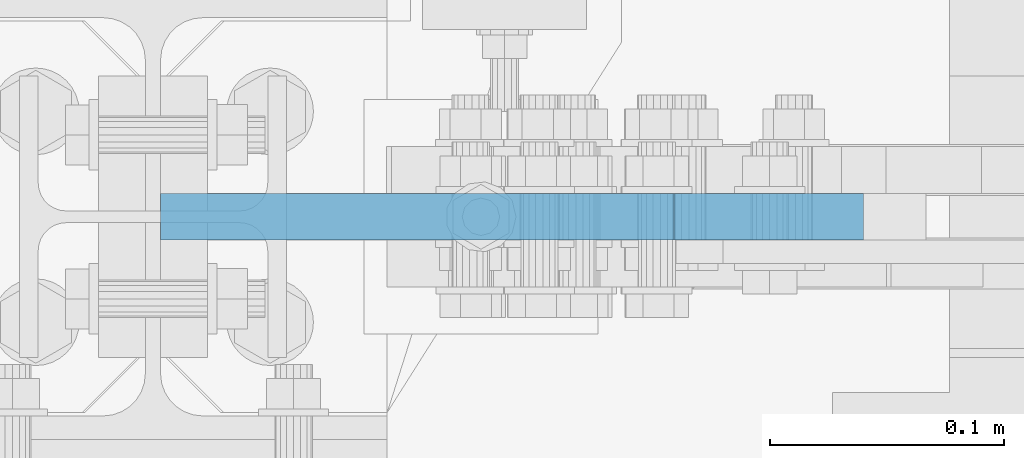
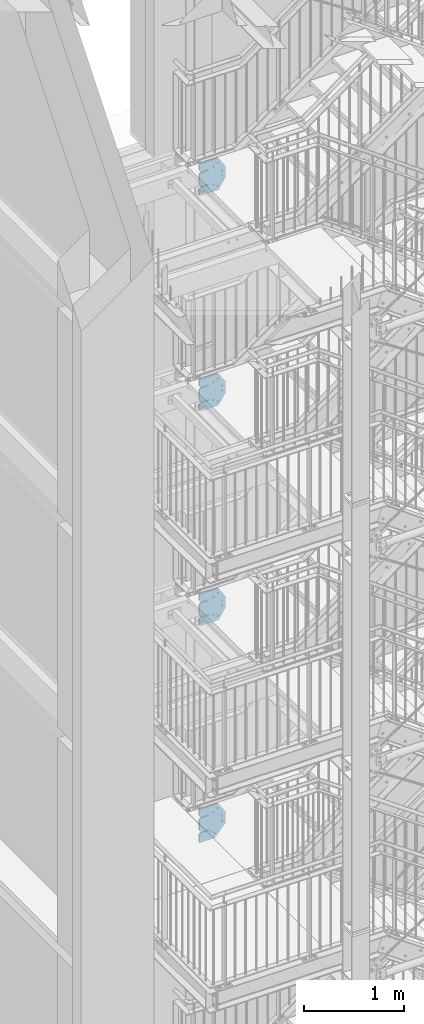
# One storey, part 186 of 831: 4 plates, 32 openings.
"""IFC2X3 building model written with IfcOpenShell, lengths in millimetres."""

from ifc_helpers import new_model, entity, si_unit, converted_unit, point, frame, frame_2d, origin, origin_with_axes, place, context, project, spatial, polyline, circle_curve, line_curve, trimmed, segment, composite_curve, circle, outline, extrude, material, layer, layer_set, element, save


model = new_model("IFC2X3")

# Units and contexts
model_context = context("Model", 3, precision=1e-09, world=origin_with_axes())
ifc_project = project(units=[si_unit("LENGTHUNIT", "METRE", prefix="MILLI"), si_unit("AREAUNIT", "SQUARE_METRE"), si_unit("VOLUMEUNIT", "CUBIC_METRE"), converted_unit("PLANEANGLEUNIT", "DEGREE", entity("IfcPlaneAngleMeasure", 0.01745329), si_unit("PLANEANGLEUNIT", "RADIAN"), dimensions=[0, 0, 0, 0, 0, 0, 0])], contexts=[model_context])

# Site, building, storey
site_placement = place(None, origin_with_axes())
site = spatial("IfcSite", under=ifc_project, at=site_placement, Name="Site", CompositionType="ELEMENT")
building_placement = place(site_placement, origin_with_axes())
building = spatial("IfcBuilding", under=site, at=building_placement, Name="Struktur 1", CompositionType="ELEMENT")
storey_placement = place(building_placement, origin_with_axes())
storey = spatial("IfcBuildingStorey", under=building, at=storey_placement, Name="Default Storey", CompositionType="ELEMENT", Elevation=0.0)

# Plate, openings
ifc_material = material(Name="S235JR")
ifc_layer = layer(ifc_material, 20.0)
ifc_layer_set = layer_set([ifc_layer], Name="S235JR")
plate_1_placement = place(None, frame((4859.963402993, 7526.736971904, 7178.428402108), z_axis=(0.0, -1.0, 0.0), x_axis=(0.0, 0.0, -1.0)))
plate_1 = element("IfcPlate", 1, at=plate_1_placement, inside=storey, material=ifc_layer_set, Name="-", ObjectType="-", context=model_context, shape_type="SweptSolid", body=[
    extrude(outline(polyline([(0.0, 0.0), (404.06512209, 0.0), (404.06512209, 177.249749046), (263.428405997, 300.0), (123.428405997, 300.0), (0.0, 219.202103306), (0.0, 0.0)])), origin_with_axes(), (0.0, 0.0, 1.0), 20.0),
])
opening_1_placement = place(plate_1_placement, frame((0.0, 0.0, 20.1), z_axis=(0.0, 0.0, -1.0), x_axis=(0.0, -1.0, 0.0)))
element("IfcOpeningElement", 2, at=opening_1_placement, cuts=plate_1, ObjectType="Opening", context=model_context, shape_type="SweptSolid", body=[
    extrude(outline(composite_curve([segment(trimmed(line_curve((20.001, -257.427402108), (-1.0, 0.0), 20.001414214), [point((20.001, -257.427402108))], [point((-0.000414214, -257.427402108))], True, "CARTESIAN"), True, "CONTINUOUS"), segment(trimmed(line_curve((-0.000414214, -257.427402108), (-0.707106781, -0.707106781), 28.284271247), [point((-0.000414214, -257.427402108))], [point((-20.000414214, -277.427402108))], True, "CARTESIAN"), True, "CONTINUOUS"), segment(trimmed(line_curve((-20.000414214, -277.427402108), (-1.0, 0.0), 77.749584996), [point((-20.000414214, -277.427402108))], [point((-97.749999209, -277.427402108))], True, "CARTESIAN"), True, "CONTINUOUS"), segment(trimmed(circle_curve(frame_2d((-97.75, -283.428402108), x_axis=(1.0, 0.0)), 6.001), [point((-97.749999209, -277.427402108))], [point((-97.75, -289.429402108))], True, "CARTESIAN"), True, "CONTINUOUS"), segment(trimmed(line_curve((-97.75, -289.429402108), (1.0, 0.0), 77.749585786), [point((-97.75, -289.429402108))], [point((-20.000414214, -289.429402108))], True, "CARTESIAN"), True, "CONTINUOUS"), segment(trimmed(line_curve((-20.000414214, -289.429402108), (0.707106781, -0.707106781), 28.284271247), [point((-20.000414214, -289.429402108))], [point((-0.000414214, -309.429402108))], True, "CARTESIAN"), True, "CONTINUOUS"), segment(trimmed(line_curve((-0.000414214, -309.429402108), (1.0, 0.0), 20.001414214), [point((-0.000414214, -309.429402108))], [point((20.001, -309.429402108))], True, "CARTESIAN"), True, "CONTINUOUS"), segment(trimmed(line_curve((20.001, -309.429402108), (0.0, 1.0), 52.002), [point((20.001, -309.429402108))], [point((20.001, -257.427402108))], True, "CARTESIAN"), True, "CONTINUOUS")], self_intersect=False)), origin(), (0.0, 0.0, 1.0), 20.2),
])
opening_2_placement = place(plate_1_placement, frame((0.0, 0.0, 20.1), z_axis=(0.0, 0.0, -1.0), x_axis=(0.0, -1.0, 0.0)))
element("IfcOpeningElement", 3, at=opening_2_placement, cuts=plate_1, ObjectType="Opening", context=model_context, shape_type="SweptSolid", body=[
    extrude(outline(composite_curve([segment(trimmed(line_curve((20.001, -77.427402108), (-1.0, 0.0), 20.001414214), [point((20.001, -77.427402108))], [point((-0.000414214, -77.427402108))], True, "CARTESIAN"), True, "CONTINUOUS"), segment(trimmed(line_curve((-0.000414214, -77.427402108), (-0.707106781, -0.707106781), 28.284271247), [point((-0.000414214, -77.427402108))], [point((-20.000414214, -97.427402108))], True, "CARTESIAN"), True, "CONTINUOUS"), segment(trimmed(line_curve((-20.000414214, -97.427402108), (-1.0, 0.0), 77.749585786), [point((-20.000414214, -97.427402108))], [point((-97.75, -97.427402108))], True, "CARTESIAN"), True, "CONTINUOUS"), segment(trimmed(circle_curve(frame_2d((-97.75, -103.428402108), x_axis=(1.0, 0.0)), 6.001), [point((-97.75, -97.427402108))], [point((-97.75, -109.429402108))], True, "CARTESIAN"), True, "CONTINUOUS"), segment(trimmed(line_curve((-97.75, -109.429402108), (1.0, 0.0), 77.749585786), [point((-97.75, -109.429402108))], [point((-20.000414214, -109.429402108))], True, "CARTESIAN"), True, "CONTINUOUS"), segment(trimmed(line_curve((-20.000414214, -109.429402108), (0.707106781, -0.707106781), 28.284271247), [point((-20.000414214, -109.429402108))], [point((-0.000414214, -129.429402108))], True, "CARTESIAN"), True, "CONTINUOUS"), segment(trimmed(line_curve((-0.000414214, -129.429402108), (1.0, 0.0), 20.001414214), [point((-0.000414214, -129.429402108))], [point((20.001, -129.429402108))], True, "CARTESIAN"), True, "CONTINUOUS"), segment(trimmed(line_curve((20.001, -129.429402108), (0.0, 1.0), 52.002), [point((20.001, -129.429402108))], [point((20.001, -77.427402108))], True, "CARTESIAN"), True, "CONTINUOUS")], self_intersect=False)), origin(), (0.0, 0.0, 1.0), 20.2),
])
opening_3_placement = place(plate_1_placement, frame((163.428405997, 269.000998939, -0.5), z_axis=(0.0, 0.0, -1.0), x_axis=(-1.0, 0.0, 0.0)))
element("IfcOpeningElement", 4, at=opening_3_placement, cuts=plate_1, ObjectType="Opening", context=model_context, shape_type="SweptSolid", body=[
    extrude(circle(Radius=9.001, at=frame_2d((0.0, -9.001), x_axis=(1.0, 0.0))), origin(), (0.0, 0.0, -1.0), 21.0),
])
opening_4_placement = place(plate_1_placement, frame((223.428405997, 269.000998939, -0.5), z_axis=(0.0, 0.0, -1.0), x_axis=(-1.0, 0.0, 0.0)))
element("IfcOpeningElement", 5, at=opening_4_placement, cuts=plate_1, ObjectType="Opening", context=model_context, shape_type="SweptSolid", body=[
    extrude(circle(Radius=9.001, at=frame_2d((0.0, -9.001), x_axis=(1.0, 0.0))), origin(), (0.0, 0.0, -1.0), 21.0),
])
opening_5_placement = place(plate_1_placement, frame((344.33129579, 170.985700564, -0.5), z_axis=(0.0, 0.0, -1.0), x_axis=(-1.0, 0.0, 0.0)))
element("IfcOpeningElement", 6, at=opening_5_placement, cuts=plate_1, ObjectType="Opening", context=model_context, shape_type="SweptSolid", body=[
    extrude(circle(Radius=9.001, at=frame_2d((-5.89276857, 6.803916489), x_axis=(1.0, 0.0))), origin(), (0.0, 0.0, -1.0), 21.0),
])
opening_6_placement = place(plate_1_placement, frame((305.05053652, 125.631296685, -0.5), z_axis=(0.0, 0.0, -1.0), x_axis=(-1.0, 0.0, 0.0)))
element("IfcOpeningElement", 7, at=opening_6_placement, cuts=plate_1, ObjectType="Opening", context=model_context, shape_type="SweptSolid", body=[
    extrude(circle(Radius=9.001, at=frame_2d((-5.89276857, 6.803916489), x_axis=(1.0, 0.0))), origin(), (0.0, 0.0, -1.0), 21.0),
])
opening_7_placement = place(plate_1_placement, frame((68.943929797, 186.431670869, -0.5), z_axis=(0.0, 0.0, 1.0), x_axis=(-0.548722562, 0.836004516, 0.0)))
element("IfcOpeningElement", 8, at=opening_7_placement, cuts=plate_1, ObjectType="Opening", context=model_context, shape_type="SweptSolid", body=[
    extrude(circle(Radius=9.001, at=frame_2d((30.0, 0.0), x_axis=(1.0, 0.0))), origin(), (0.0, 0.0, 1.0), 21.0),
])
opening_8_placement = place(plate_1_placement, frame((68.943929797, 186.431670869, -0.5), z_axis=(0.0, 0.0, 1.0), x_axis=(-0.548722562, 0.836004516, 0.0)))
element("IfcOpeningElement", 9, at=opening_8_placement, cuts=plate_1, ObjectType="Opening", context=model_context, shape_type="SweptSolid", body=[
    extrude(circle(Radius=9.001, at=frame_2d((-30.0, 0.0), x_axis=(1.0, 0.0))), origin(), (0.0, 0.0, 1.0), 21.0),
])

plate_2_placement = place(None, frame((4859.963402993, 7526.736971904, 9810.428402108), z_axis=(0.0, -1.0, 0.0), x_axis=(0.0, 0.0, -1.0)))
plate_2 = element("IfcPlate", 10, at=plate_2_placement, inside=storey, material=ifc_layer_set, Name="-", ObjectType="-", context=model_context, shape_type="SweptSolid", body=[
    extrude(outline(polyline([(0.0, 0.0), (386.856811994, 0.0), (386.856811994, 219.202103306), (263.428405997, 300.0), (123.428405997, 300.0), (0.0, 219.202103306), (0.0, 0.0)])), origin_with_axes(), (0.0, 0.0, 1.0), 20.0),
])
opening_9_placement = place(plate_2_placement, frame((0.0, 0.0, 20.1), z_axis=(0.0, 0.0, -1.0), x_axis=(0.0, -1.0, 0.0)))
element("IfcOpeningElement", 11, at=opening_9_placement, cuts=plate_2, ObjectType="Opening", context=model_context, shape_type="SweptSolid", body=[
    extrude(outline(composite_curve([segment(trimmed(line_curve((20.001, -257.427402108), (-1.0, 0.0), 20.001414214), [point((20.001, -257.427402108))], [point((-0.000414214, -257.427402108))], True, "CARTESIAN"), True, "CONTINUOUS"), segment(trimmed(line_curve((-0.000414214, -257.427402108), (-0.707106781, -0.707106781), 28.284271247), [point((-0.000414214, -257.427402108))], [point((-20.000414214, -277.427402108))], True, "CARTESIAN"), True, "CONTINUOUS"), segment(trimmed(line_curve((-20.000414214, -277.427402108), (-1.0, 0.0), 77.749584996), [point((-20.000414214, -277.427402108))], [point((-97.749999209, -277.427402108))], True, "CARTESIAN"), True, "CONTINUOUS"), segment(trimmed(circle_curve(frame_2d((-97.75, -283.428402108), x_axis=(1.0, 0.0)), 6.001), [point((-97.749999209, -277.427402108))], [point((-97.75, -289.429402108))], True, "CARTESIAN"), True, "CONTINUOUS"), segment(trimmed(line_curve((-97.75, -289.429402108), (1.0, 0.0), 77.749585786), [point((-97.75, -289.429402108))], [point((-20.000414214, -289.429402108))], True, "CARTESIAN"), True, "CONTINUOUS"), segment(trimmed(line_curve((-20.000414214, -289.429402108), (0.707106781, -0.707106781), 28.284271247), [point((-20.000414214, -289.429402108))], [point((-0.000414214, -309.429402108))], True, "CARTESIAN"), True, "CONTINUOUS"), segment(trimmed(line_curve((-0.000414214, -309.429402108), (1.0, 0.0), 20.001414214), [point((-0.000414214, -309.429402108))], [point((20.001, -309.429402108))], True, "CARTESIAN"), True, "CONTINUOUS"), segment(trimmed(line_curve((20.001, -309.429402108), (0.0, 1.0), 52.002), [point((20.001, -309.429402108))], [point((20.001, -257.427402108))], True, "CARTESIAN"), True, "CONTINUOUS")], self_intersect=False)), origin(), (0.0, 0.0, 1.0), 20.2),
])
opening_10_placement = place(plate_2_placement, frame((0.0, 0.0, 20.1), z_axis=(0.0, 0.0, -1.0), x_axis=(0.0, -1.0, 0.0)))
element("IfcOpeningElement", 12, at=opening_10_placement, cuts=plate_2, ObjectType="Opening", context=model_context, shape_type="SweptSolid", body=[
    extrude(outline(composite_curve([segment(trimmed(line_curve((20.001, -77.427402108), (-1.0, 0.0), 20.001414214), [point((20.001, -77.427402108))], [point((-0.000414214, -77.427402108))], True, "CARTESIAN"), True, "CONTINUOUS"), segment(trimmed(line_curve((-0.000414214, -77.427402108), (-0.707106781, -0.707106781), 28.284271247), [point((-0.000414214, -77.427402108))], [point((-20.000414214, -97.427402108))], True, "CARTESIAN"), True, "CONTINUOUS"), segment(trimmed(line_curve((-20.000414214, -97.427402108), (-1.0, 0.0), 77.749585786), [point((-20.000414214, -97.427402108))], [point((-97.75, -97.427402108))], True, "CARTESIAN"), True, "CONTINUOUS"), segment(trimmed(circle_curve(frame_2d((-97.75, -103.428402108), x_axis=(1.0, 0.0)), 6.001), [point((-97.75, -97.427402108))], [point((-97.75, -109.429402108))], True, "CARTESIAN"), True, "CONTINUOUS"), segment(trimmed(line_curve((-97.75, -109.429402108), (1.0, 0.0), 77.749585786), [point((-97.75, -109.429402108))], [point((-20.000414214, -109.429402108))], True, "CARTESIAN"), True, "CONTINUOUS"), segment(trimmed(line_curve((-20.000414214, -109.429402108), (0.707106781, -0.707106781), 28.284271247), [point((-20.000414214, -109.429402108))], [point((-0.000414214, -129.429402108))], True, "CARTESIAN"), True, "CONTINUOUS"), segment(trimmed(line_curve((-0.000414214, -129.429402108), (1.0, 0.0), 20.001414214), [point((-0.000414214, -129.429402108))], [point((20.001, -129.429402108))], True, "CARTESIAN"), True, "CONTINUOUS"), segment(trimmed(line_curve((20.001, -129.429402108), (0.0, 1.0), 52.002), [point((20.001, -129.429402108))], [point((20.001, -77.427402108))], True, "CARTESIAN"), True, "CONTINUOUS")], self_intersect=False)), origin(), (0.0, 0.0, 1.0), 20.2),
])
opening_11_placement = place(plate_2_placement, frame((163.428405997, 269.000998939, -0.5), z_axis=(0.0, 0.0, -1.0), x_axis=(-1.0, 0.0, 0.0)))
element("IfcOpeningElement", 13, at=opening_11_placement, cuts=plate_2, ObjectType="Opening", context=model_context, shape_type="SweptSolid", body=[
    extrude(circle(Radius=9.001, at=frame_2d((0.0, -9.001), x_axis=(1.0, 0.0))), origin(), (0.0, 0.0, -1.0), 21.0),
])
opening_12_placement = place(plate_2_placement, frame((223.428405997, 269.000998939, -0.5), z_axis=(0.0, 0.0, -1.0), x_axis=(-1.0, 0.0, 0.0)))
element("IfcOpeningElement", 14, at=opening_12_placement, cuts=plate_2, ObjectType="Opening", context=model_context, shape_type="SweptSolid", body=[
    extrude(circle(Radius=9.001, at=frame_2d((0.0, -9.001), x_axis=(1.0, 0.0))), origin(), (0.0, 0.0, -1.0), 21.0),
])
opening_13_placement = place(plate_2_placement, frame((329.531485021, 204.110694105, -0.5), z_axis=(0.0, 0.0, -1.0), x_axis=(-1.0, 0.0, 0.0)))
element("IfcOpeningElement", 15, at=opening_13_placement, cuts=plate_2, ObjectType="Opening", context=model_context, shape_type="SweptSolid", body=[
    extrude(circle(Radius=9.001, at=frame_2d((-4.939030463, 7.524890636), x_axis=(1.0, 0.0))), origin(), (0.0, 0.0, -1.0), 21.0),
])
opening_14_placement = place(plate_2_placement, frame((296.608273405, 153.950329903, -0.5), z_axis=(0.0, 0.0, -1.0), x_axis=(-1.0, 0.0, 0.0)))
element("IfcOpeningElement", 16, at=opening_14_placement, cuts=plate_2, ObjectType="Opening", context=model_context, shape_type="SweptSolid", body=[
    extrude(circle(Radius=9.001, at=frame_2d((-4.939030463, 7.524890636), x_axis=(1.0, 0.0))), origin(), (0.0, 0.0, -1.0), 21.0),
])
opening_15_placement = place(plate_2_placement, frame((69.052088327, 186.502432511, -0.5), z_axis=(0.0, 0.0, 1.0), x_axis=(-0.54798027, 0.836491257, 0.0)))
element("IfcOpeningElement", 17, at=opening_15_placement, cuts=plate_2, ObjectType="Opening", context=model_context, shape_type="SweptSolid", body=[
    extrude(circle(Radius=9.001, at=frame_2d((30.0, 0.0), x_axis=(1.0, 0.0))), origin(), (0.0, 0.0, 1.0), 21.0),
])
opening_16_placement = place(plate_2_placement, frame((69.052088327, 186.502432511, -0.5), z_axis=(0.0, 0.0, 1.0), x_axis=(-0.54798027, 0.836491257, 0.0)))
element("IfcOpeningElement", 18, at=opening_16_placement, cuts=plate_2, ObjectType="Opening", context=model_context, shape_type="SweptSolid", body=[
    extrude(circle(Radius=9.001, at=frame_2d((-30.0, 0.0), x_axis=(1.0, 0.0))), origin(), (0.0, 0.0, 1.0), 21.0),
])

plate_3_placement = place(None, frame((4859.963402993, 7526.736971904, 12437.428402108), z_axis=(0.0, -1.0, 0.0), x_axis=(0.0, 0.0, -1.0)))
plate_3 = element("IfcPlate", 19, at=plate_3_placement, inside=storey, material=ifc_layer_set, Name="-", ObjectType="-", context=model_context, shape_type="SweptSolid", body=[
    extrude(outline(polyline([(0.0, 0.0), (386.856811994, 0.0), (386.856811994, 219.202103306), (263.428405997, 300.0), (123.428405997, 300.0), (0.0, 219.202103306), (0.0, 0.0)])), origin_with_axes(), (0.0, 0.0, 1.0), 20.0),
])
opening_17_placement = place(plate_3_placement, frame((0.0, 0.0, 20.1), z_axis=(0.0, 0.0, -1.0), x_axis=(0.0, -1.0, 0.0)))
element("IfcOpeningElement", 20, at=opening_17_placement, cuts=plate_3, ObjectType="Opening", context=model_context, shape_type="SweptSolid", body=[
    extrude(outline(composite_curve([segment(trimmed(line_curve((20.001, -257.427402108), (-1.0, 0.0), 20.001414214), [point((20.001, -257.427402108))], [point((-0.000414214, -257.427402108))], True, "CARTESIAN"), True, "CONTINUOUS"), segment(trimmed(line_curve((-0.000414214, -257.427402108), (-0.707106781, -0.707106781), 28.284271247), [point((-0.000414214, -257.427402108))], [point((-20.000414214, -277.427402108))], True, "CARTESIAN"), True, "CONTINUOUS"), segment(trimmed(line_curve((-20.000414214, -277.427402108), (-1.0, 0.0), 77.749584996), [point((-20.000414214, -277.427402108))], [point((-97.749999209, -277.427402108))], True, "CARTESIAN"), True, "CONTINUOUS"), segment(trimmed(circle_curve(frame_2d((-97.75, -283.428402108), x_axis=(1.0, 0.0)), 6.001), [point((-97.749999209, -277.427402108))], [point((-97.75, -289.429402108))], True, "CARTESIAN"), True, "CONTINUOUS"), segment(trimmed(line_curve((-97.75, -289.429402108), (1.0, 0.0), 77.749585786), [point((-97.75, -289.429402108))], [point((-20.000414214, -289.429402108))], True, "CARTESIAN"), True, "CONTINUOUS"), segment(trimmed(line_curve((-20.000414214, -289.429402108), (0.707106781, -0.707106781), 28.284271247), [point((-20.000414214, -289.429402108))], [point((-0.000414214, -309.429402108))], True, "CARTESIAN"), True, "CONTINUOUS"), segment(trimmed(line_curve((-0.000414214, -309.429402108), (1.0, 0.0), 20.001414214), [point((-0.000414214, -309.429402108))], [point((20.001, -309.429402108))], True, "CARTESIAN"), True, "CONTINUOUS"), segment(trimmed(line_curve((20.001, -309.429402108), (0.0, 1.0), 52.002), [point((20.001, -309.429402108))], [point((20.001, -257.427402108))], True, "CARTESIAN"), True, "CONTINUOUS")], self_intersect=False)), origin(), (0.0, 0.0, 1.0), 20.2),
])
opening_18_placement = place(plate_3_placement, frame((0.0, 0.0, 20.1), z_axis=(0.0, 0.0, -1.0), x_axis=(0.0, -1.0, 0.0)))
element("IfcOpeningElement", 21, at=opening_18_placement, cuts=plate_3, ObjectType="Opening", context=model_context, shape_type="SweptSolid", body=[
    extrude(outline(composite_curve([segment(trimmed(line_curve((20.001, -77.427402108), (-1.0, 0.0), 20.001414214), [point((20.001, -77.427402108))], [point((-0.000414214, -77.427402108))], True, "CARTESIAN"), True, "CONTINUOUS"), segment(trimmed(line_curve((-0.000414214, -77.427402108), (-0.707106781, -0.707106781), 28.284271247), [point((-0.000414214, -77.427402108))], [point((-20.000414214, -97.427402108))], True, "CARTESIAN"), True, "CONTINUOUS"), segment(trimmed(line_curve((-20.000414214, -97.427402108), (-1.0, 0.0), 77.749585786), [point((-20.000414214, -97.427402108))], [point((-97.75, -97.427402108))], True, "CARTESIAN"), True, "CONTINUOUS"), segment(trimmed(circle_curve(frame_2d((-97.75, -103.428402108), x_axis=(1.0, 0.0)), 6.001), [point((-97.75, -97.427402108))], [point((-97.75, -109.429402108))], True, "CARTESIAN"), True, "CONTINUOUS"), segment(trimmed(line_curve((-97.75, -109.429402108), (1.0, 0.0), 77.749585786), [point((-97.75, -109.429402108))], [point((-20.000414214, -109.429402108))], True, "CARTESIAN"), True, "CONTINUOUS"), segment(trimmed(line_curve((-20.000414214, -109.429402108), (0.707106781, -0.707106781), 28.284271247), [point((-20.000414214, -109.429402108))], [point((-0.000414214, -129.429402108))], True, "CARTESIAN"), True, "CONTINUOUS"), segment(trimmed(line_curve((-0.000414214, -129.429402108), (1.0, 0.0), 20.001414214), [point((-0.000414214, -129.429402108))], [point((20.001, -129.429402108))], True, "CARTESIAN"), True, "CONTINUOUS"), segment(trimmed(line_curve((20.001, -129.429402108), (0.0, 1.0), 52.002), [point((20.001, -129.429402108))], [point((20.001, -77.427402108))], True, "CARTESIAN"), True, "CONTINUOUS")], self_intersect=False)), origin(), (0.0, 0.0, 1.0), 20.2),
])
opening_19_placement = place(plate_3_placement, frame((163.428405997, 269.000998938, -0.5), z_axis=(0.0, 0.0, -1.0), x_axis=(-1.0, 0.0, 0.0)))
element("IfcOpeningElement", 22, at=opening_19_placement, cuts=plate_3, ObjectType="Opening", context=model_context, shape_type="SweptSolid", body=[
    extrude(circle(Radius=9.001, at=frame_2d((0.0, -9.001), x_axis=(1.0, 0.0))), origin(), (0.0, 0.0, -1.0), 21.0),
])
opening_20_placement = place(plate_3_placement, frame((223.428405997, 269.000998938, -0.5), z_axis=(0.0, 0.0, -1.0), x_axis=(-1.0, 0.0, 0.0)))
element("IfcOpeningElement", 23, at=opening_20_placement, cuts=plate_3, ObjectType="Opening", context=model_context, shape_type="SweptSolid", body=[
    extrude(circle(Radius=9.001, at=frame_2d((0.0, -9.001), x_axis=(1.0, 0.0))), origin(), (0.0, 0.0, -1.0), 21.0),
])
opening_21_placement = place(plate_3_placement, frame((329.350426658, 204.228988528, -0.5), z_axis=(0.0, 0.0, -1.0), x_axis=(-1.0, 0.0, 0.0)))
element("IfcOpeningElement", 24, at=opening_21_placement, cuts=plate_3, ObjectType="Opening", context=model_context, shape_type="SweptSolid", body=[
    extrude(circle(Radius=9.001, at=frame_2d((-4.932467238, 7.529194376), x_axis=(1.0, 0.0))), origin(), (0.0, 0.0, -1.0), 21.0),
])
opening_22_placement = place(plate_3_placement, frame((296.470965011, 154.039935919, -0.5), z_axis=(0.0, 0.0, -1.0), x_axis=(-1.0, 0.0, 0.0)))
element("IfcOpeningElement", 25, at=opening_22_placement, cuts=plate_3, ObjectType="Opening", context=model_context, shape_type="SweptSolid", body=[
    extrude(circle(Radius=9.001, at=frame_2d((-4.932467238, 7.529194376), x_axis=(1.0, 0.0))), origin(), (0.0, 0.0, -1.0), 21.0),
])
opening_23_placement = place(plate_3_placement, frame((68.83434187, 186.359941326, -0.5), z_axis=(0.0, 0.0, 1.0), x_axis=(-0.549157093, 0.835719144, 0.0)))
element("IfcOpeningElement", 26, at=opening_23_placement, cuts=plate_3, ObjectType="Opening", context=model_context, shape_type="SweptSolid", body=[
    extrude(circle(Radius=9.001, at=frame_2d((30.0, 0.0), x_axis=(1.0, 0.0))), origin(), (0.0, 0.0, 1.0), 21.0),
])
opening_24_placement = place(plate_3_placement, frame((68.83434187, 186.359941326, -0.5), z_axis=(0.0, 0.0, 1.0), x_axis=(-0.549157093, 0.835719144, 0.0)))
element("IfcOpeningElement", 27, at=opening_24_placement, cuts=plate_3, ObjectType="Opening", context=model_context, shape_type="SweptSolid", body=[
    extrude(circle(Radius=9.001, at=frame_2d((-30.0, 0.0), x_axis=(1.0, 0.0))), origin(), (0.0, 0.0, 1.0), 21.0),
])

plate_4_placement = place(None, frame((4859.963402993, 7526.736971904, 15072.428402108), z_axis=(0.0, -1.0, 0.0), x_axis=(0.0, 0.0, -1.0)))
plate_4 = element("IfcPlate", 28, at=plate_4_placement, inside=storey, material=ifc_layer_set, Name="-", ObjectType="-", context=model_context, shape_type="SweptSolid", body=[
    extrude(outline(polyline([(0.0, 0.0), (386.856811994, 0.0), (386.856811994, 219.202103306), (263.428405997, 300.0), (123.428405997, 300.0), (0.0, 219.202103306), (0.0, 0.0)])), origin_with_axes(), (0.0, 0.0, 1.0), 20.0),
])
opening_25_placement = place(plate_4_placement, frame((0.0, 0.0, 20.1), z_axis=(0.0, 0.0, -1.0), x_axis=(0.0, -1.0, 0.0)))
element("IfcOpeningElement", 29, at=opening_25_placement, cuts=plate_4, ObjectType="Opening", context=model_context, shape_type="SweptSolid", body=[
    extrude(outline(composite_curve([segment(trimmed(line_curve((20.001, -257.427402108), (-1.0, 0.0), 20.001414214), [point((20.001, -257.427402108))], [point((-0.000414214, -257.427402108))], True, "CARTESIAN"), True, "CONTINUOUS"), segment(trimmed(line_curve((-0.000414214, -257.427402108), (-0.707106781, -0.707106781), 28.284271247), [point((-0.000414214, -257.427402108))], [point((-20.000414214, -277.427402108))], True, "CARTESIAN"), True, "CONTINUOUS"), segment(trimmed(line_curve((-20.000414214, -277.427402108), (-1.0, 0.0), 77.749584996), [point((-20.000414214, -277.427402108))], [point((-97.749999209, -277.427402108))], True, "CARTESIAN"), True, "CONTINUOUS"), segment(trimmed(circle_curve(frame_2d((-97.75, -283.428402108), x_axis=(1.0, 0.0)), 6.001), [point((-97.749999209, -277.427402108))], [point((-97.75, -289.429402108))], True, "CARTESIAN"), True, "CONTINUOUS"), segment(trimmed(line_curve((-97.75, -289.429402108), (1.0, 0.0), 77.749585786), [point((-97.75, -289.429402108))], [point((-20.000414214, -289.429402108))], True, "CARTESIAN"), True, "CONTINUOUS"), segment(trimmed(line_curve((-20.000414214, -289.429402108), (0.707106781, -0.707106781), 28.284271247), [point((-20.000414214, -289.429402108))], [point((-0.000414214, -309.429402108))], True, "CARTESIAN"), True, "CONTINUOUS"), segment(trimmed(line_curve((-0.000414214, -309.429402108), (1.0, 0.0), 20.001414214), [point((-0.000414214, -309.429402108))], [point((20.001, -309.429402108))], True, "CARTESIAN"), True, "CONTINUOUS"), segment(trimmed(line_curve((20.001, -309.429402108), (0.0, 1.0), 52.002), [point((20.001, -309.429402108))], [point((20.001, -257.427402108))], True, "CARTESIAN"), True, "CONTINUOUS")], self_intersect=False)), origin(), (0.0, 0.0, 1.0), 20.2),
])
opening_26_placement = place(plate_4_placement, frame((0.0, 0.0, 20.1), z_axis=(0.0, 0.0, -1.0), x_axis=(0.0, -1.0, 0.0)))
element("IfcOpeningElement", 30, at=opening_26_placement, cuts=plate_4, ObjectType="Opening", context=model_context, shape_type="SweptSolid", body=[
    extrude(outline(composite_curve([segment(trimmed(line_curve((20.001, -77.427402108), (-1.0, 0.0), 20.001414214), [point((20.001, -77.427402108))], [point((-0.000414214, -77.427402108))], True, "CARTESIAN"), True, "CONTINUOUS"), segment(trimmed(line_curve((-0.000414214, -77.427402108), (-0.707106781, -0.707106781), 28.284271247), [point((-0.000414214, -77.427402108))], [point((-20.000414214, -97.427402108))], True, "CARTESIAN"), True, "CONTINUOUS"), segment(trimmed(line_curve((-20.000414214, -97.427402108), (-1.0, 0.0), 77.749585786), [point((-20.000414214, -97.427402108))], [point((-97.75, -97.427402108))], True, "CARTESIAN"), True, "CONTINUOUS"), segment(trimmed(circle_curve(frame_2d((-97.75, -103.428402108), x_axis=(1.0, 0.0)), 6.001), [point((-97.75, -97.427402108))], [point((-97.75, -109.429402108))], True, "CARTESIAN"), True, "CONTINUOUS"), segment(trimmed(line_curve((-97.75, -109.429402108), (1.0, 0.0), 77.749585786), [point((-97.75, -109.429402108))], [point((-20.000414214, -109.429402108))], True, "CARTESIAN"), True, "CONTINUOUS"), segment(trimmed(line_curve((-20.000414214, -109.429402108), (0.707106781, -0.707106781), 28.284271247), [point((-20.000414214, -109.429402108))], [point((-0.000414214, -129.429402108))], True, "CARTESIAN"), True, "CONTINUOUS"), segment(trimmed(line_curve((-0.000414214, -129.429402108), (1.0, 0.0), 20.001414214), [point((-0.000414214, -129.429402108))], [point((20.001, -129.429402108))], True, "CARTESIAN"), True, "CONTINUOUS"), segment(trimmed(line_curve((20.001, -129.429402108), (0.0, 1.0), 52.002), [point((20.001, -129.429402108))], [point((20.001, -77.427402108))], True, "CARTESIAN"), True, "CONTINUOUS")], self_intersect=False)), origin(), (0.0, 0.0, 1.0), 20.2),
])
opening_27_placement = place(plate_4_placement, frame((163.428405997, 269.000998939, -0.5), z_axis=(0.0, 0.0, -1.0), x_axis=(-1.0, 0.0, 0.0)))
element("IfcOpeningElement", 31, at=opening_27_placement, cuts=plate_4, ObjectType="Opening", context=model_context, shape_type="SweptSolid", body=[
    extrude(circle(Radius=9.001, at=frame_2d((0.0, -9.001), x_axis=(1.0, 0.0))), origin(), (0.0, 0.0, -1.0), 21.0),
])
opening_28_placement = place(plate_4_placement, frame((223.428405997, 269.000998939, -0.5), z_axis=(0.0, 0.0, -1.0), x_axis=(-1.0, 0.0, 0.0)))
element("IfcOpeningElement", 32, at=opening_28_placement, cuts=plate_4, ObjectType="Opening", context=model_context, shape_type="SweptSolid", body=[
    extrude(circle(Radius=9.001, at=frame_2d((0.0, -9.001), x_axis=(1.0, 0.0))), origin(), (0.0, 0.0, -1.0), 21.0),
])
opening_29_placement = place(plate_4_placement, frame((69.331094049, 186.685198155, -0.5), z_axis=(0.0, 0.0, 1.0), x_axis=(-0.546968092, 0.837153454, 0.0)))
element("IfcOpeningElement", 33, at=opening_29_placement, cuts=plate_4, ObjectType="Opening", context=model_context, shape_type="SweptSolid", body=[
    extrude(circle(Radius=9.001, at=frame_2d((30.0, 0.0), x_axis=(1.0, 0.0))), origin(), (0.0, 0.0, 1.0), 21.0),
])
opening_30_placement = place(plate_4_placement, frame((69.331094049, 186.685198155, -0.5), z_axis=(0.0, 0.0, 1.0), x_axis=(-0.546968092, 0.837153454, 0.0)))
element("IfcOpeningElement", 34, at=opening_30_placement, cuts=plate_4, ObjectType="Opening", context=model_context, shape_type="SweptSolid", body=[
    extrude(circle(Radius=9.001, at=frame_2d((-30.0, 0.0), x_axis=(1.0, 0.0))), origin(), (0.0, 0.0, 1.0), 21.0),
])
opening_31_placement = place(plate_4_placement, frame((329.640029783, 204.039795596, -0.5), z_axis=(0.0, 0.0, -1.0), x_axis=(-1.0, 0.0, 0.0)))
element("IfcOpeningElement", 35, at=opening_31_placement, cuts=plate_4, ObjectType="Opening", context=model_context, shape_type="SweptSolid", body=[
    extrude(circle(Radius=9.001, at=frame_2d((-4.942962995, 7.522308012), x_axis=(1.0, 0.0))), origin(), (0.0, 0.0, -1.0), 21.0),
])
opening_32_placement = place(plate_4_placement, frame((296.690604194, 153.896646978, -0.5), z_axis=(0.0, 0.0, -1.0), x_axis=(-1.0, 0.0, 0.0)))
element("IfcOpeningElement", 36, at=opening_32_placement, cuts=plate_4, ObjectType="Opening", context=model_context, shape_type="SweptSolid", body=[
    extrude(circle(Radius=9.001, at=frame_2d((-4.942962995, 7.522308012), x_axis=(1.0, 0.0))), origin(), (0.0, 0.0, -1.0), 21.0),
])

save(model, "model.ifc")
